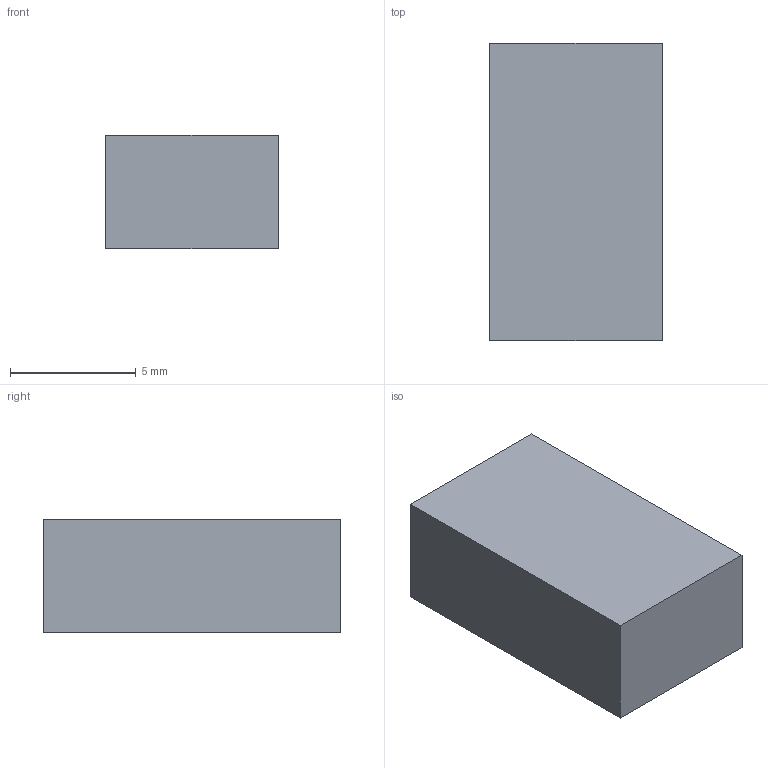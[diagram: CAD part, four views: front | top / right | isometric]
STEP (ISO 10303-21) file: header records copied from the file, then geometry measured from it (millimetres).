
FILE_DESCRIPTION(('Open CASCADE Model'),'2;1');
FILE_NAME('Open CASCADE Shape Model','2026-09-16T18:45:42',('Author'),( 'Open CASCADE'),'Open CASCADE STEP processor 7.7','Open CASCADE 7.7' ,'Unknown');
FILE_SCHEMA(('AUTOMOTIVE_DESIGN { 1 0 10303 214 1 1 1 1 }'));
Length unit declared in the file: millimetre
Products named in the file (1): Open CASCADE STEP translator 7.7 2
Bounding box: 6.85 x 11.8 x 4.5 mm (x, y, z)
Volume: 363.7 mm3; surface area: 329.5 mm2
Topology: 1 solids, 1 shells, 6 faces, 12 edges, 8 vertices
Faces by surface type: plane 6
Entity records: 322 total; most frequent: CARTESIAN_POINT 51, DIRECTION 50, LINE 36, VECTOR 36, ORIENTED_EDGE 24, PCURVE 24, DEFINITIONAL_REPRESENTATION 24, EDGE_CURVE 12
